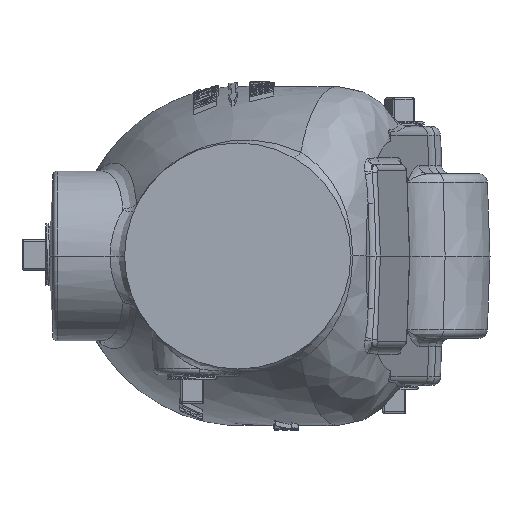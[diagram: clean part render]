
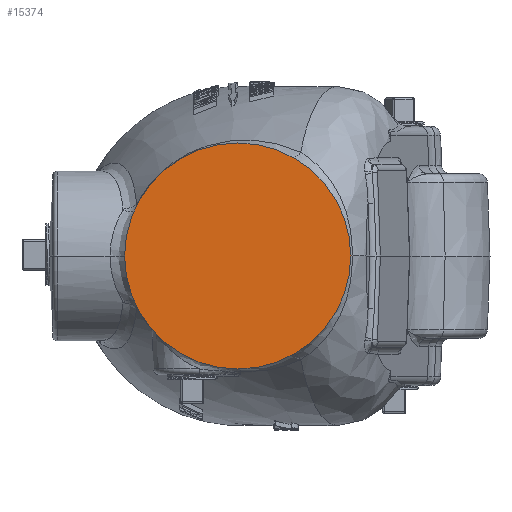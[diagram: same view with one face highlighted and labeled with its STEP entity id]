
A CAD part, left-side view. The second image highlights one B-rep face of the part: STEP entity #15374.
In plain terms, the highlighted planar face has unit normal (-1, 0, 0).
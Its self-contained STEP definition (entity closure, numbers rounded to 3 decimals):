
#2607 = AXIS2_PLACEMENT_3D ( 'NONE', #21885, #22100, #19374 ) ;
#3626 = DIRECTION ( 'NONE',  ( 0., -1., 0. ) ) ;
#4388 = EDGE_LOOP ( 'NONE', ( #22872, #5702 ) ) ;
#4592 = FACE_OUTER_BOUND ( 'NONE', #4388, .T. ) ;
#4836 = CARTESIAN_POINT ( 'NONE',  ( -92.93, 38.1, 0. ) ) ;
#5702 = ORIENTED_EDGE ( 'NONE', *, *, #25796, .F. ) ;
#6930 = AXIS2_PLACEMENT_3D ( 'NONE', #13745, #18520, #3626 ) ;
#7831 = VERTEX_POINT ( 'NONE', #24582 ) ;
#9804 = DIRECTION ( 'NONE',  ( 1., 0., 0. ) ) ;
#10414 = VERTEX_POINT ( 'NONE', #4836 ) ;
#12421 = EDGE_CURVE ( 'NONE', #7831, #10414, #21450, .T. ) ;
#13745 = CARTESIAN_POINT ( 'NONE',  ( -92.93, 0., 0. ) ) ;
#14137 = CIRCLE ( 'NONE', #31299, 38.1 ) ;
#15374 = ADVANCED_FACE ( 'NONE', ( #4592 ), #16981, .T. ) ;
#16981 = PLANE ( 'NONE',  #2607 ) ;
#18520 = DIRECTION ( 'NONE',  ( -1., 0., 0. ) ) ;
#19374 = DIRECTION ( 'NONE',  ( 0., 0., 1. ) ) ;
#19919 = CARTESIAN_POINT ( 'NONE',  ( -92.93, 0., 0. ) ) ;
#21450 = CIRCLE ( 'NONE', #6930, 38.1 ) ;
#21885 = CARTESIAN_POINT ( 'NONE',  ( -92.93, 0., 0. ) ) ;
#22100 = DIRECTION ( 'NONE',  ( -1., 0., 0. ) ) ;
#22214 = DIRECTION ( 'NONE',  ( 0., -1., 0. ) ) ;
#22872 = ORIENTED_EDGE ( 'NONE', *, *, #12421, .T. ) ;
#24582 = CARTESIAN_POINT ( 'NONE',  ( -92.93, -38.1, 0. ) ) ;
#25796 = EDGE_CURVE ( 'NONE', #7831, #10414, #14137, .T. ) ;
#31299 = AXIS2_PLACEMENT_3D ( 'NONE', #19919, #9804, #22214 ) ;
